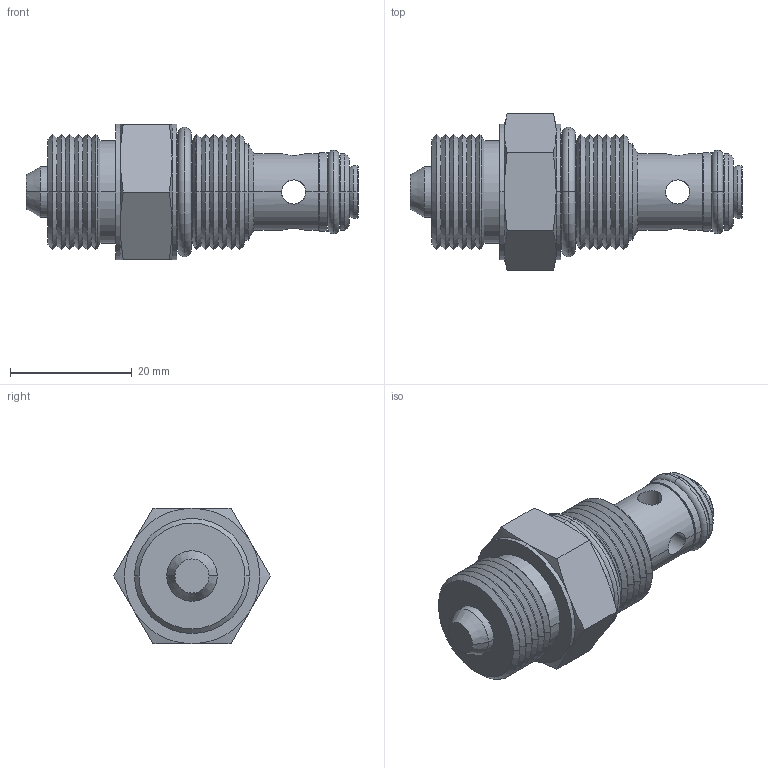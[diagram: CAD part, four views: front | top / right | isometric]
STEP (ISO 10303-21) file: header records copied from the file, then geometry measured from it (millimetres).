
FILE_DESCRIPTION((''),'2;1');
FILE_NAME('U:\Solid model CD\Solid model full\Mechanical\STEP\PBMCI00-3D Full.stp','2008-07-29T09:50:48',('Dan'),(''),'Autodesk Inventor 9','Autodesk Inventor 9','');
FILE_SCHEMA(('AUTOMOTIVE_DESIGN { 1 0 10303 214 1 1 1 1 }'));
Length unit declared in the file: inch
Products named in the file (5): PBMCI00-3D Full; PBMCI00-3D Full1; PBMCI00-3D Full2; PBMCI00-3D Full3; PBMCI00-3D Full4
Assembly tree (4 placements, depth 2):
  PBMCI00-3D Full
    PBMCI00-3D Full1
    PBMCI00-3D Full2
    PBMCI00-3D Full3
    PBMCI00-3D Full4
Bounding box: 54.46 x 25.66 x 22.22 mm (x, y, z)
Volume: 12175.9 mm3; surface area: 5126.5 mm2
Topology: 4 solids, 4 shells, 131 faces, 274 edges, 150 vertices
Faces by surface type: cone 74, cylinder 32, plane 17, torus 8
Entity records: 3676 total; most frequent: CARTESIAN_POINT 752, DIRECTION 654, ORIENTED_EDGE 548, AXIS2_PLACEMENT_3D 276, EDGE_CURVE 274, VERTEX_POINT 150, EDGE_LOOP 142, CIRCLE 132
